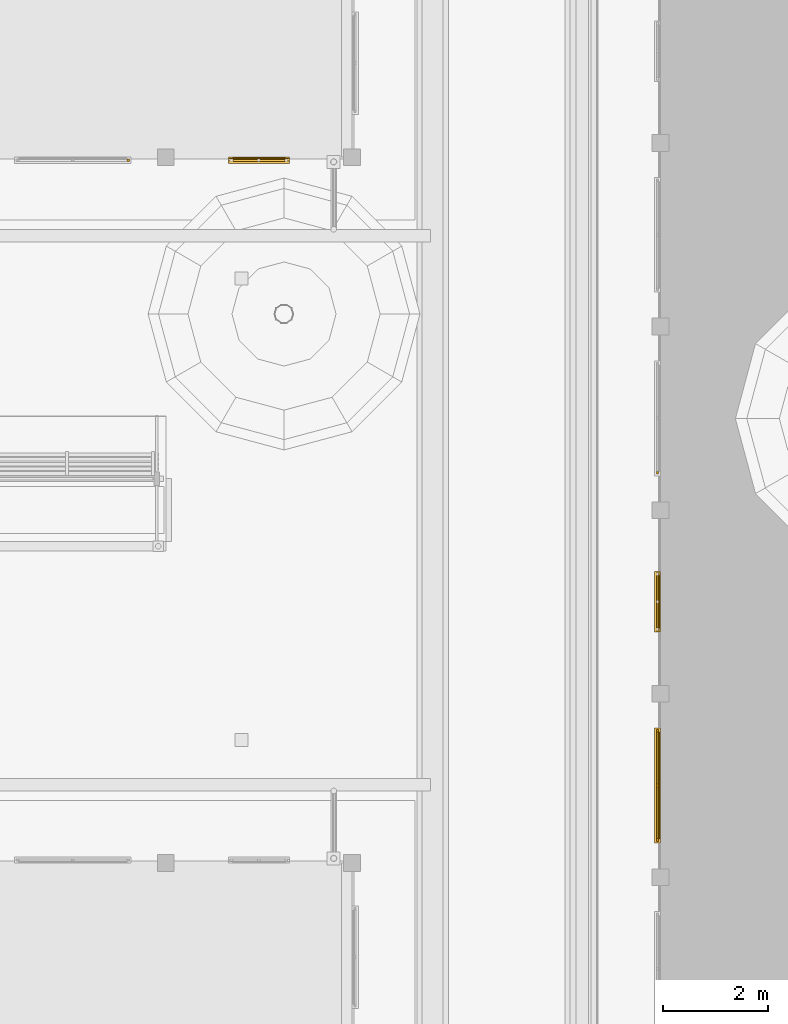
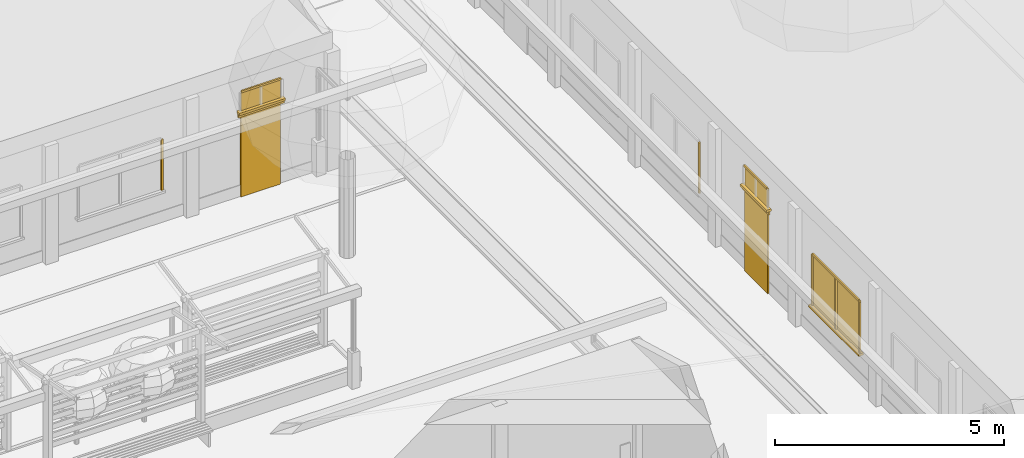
# One storey, part 67 of 177: 14 windows, 4 doors.
"""IFC4 building model written with IfcOpenShell, lengths in metres."""

import ifcopenshell
import ifcopenshell.guid

model = None  # the IFC model being written
_history = None  # IfcOwnerHistory: only IFC2X3 demands one
_inside = {}  # id of a spatial element -> (the spatial element, [elements in it])
_under = {}  # id of a project, library or spatial element -> (it, [spatial elements below it])
_declared = {}  # id of a project -> (the project, [libraries it declares])
_typed = {}  # id of a type object -> (the type object, [elements of that type])
_made_of = {}  # id of a material, layer set ... -> (it, [elements and type objects made of it])


def new_model(schema):
    """Start an empty IFC model of exactly this schema.

    Asked for "IFC4X3", IfcOpenShell would pick the latest addendum, in which some entities
    have other attributes; the version numbers below select the first issue.
    IFC2X3 requires an IfcOwnerHistory on every rooted entity: one is made here for all.
    """
    global model, _history
    if schema == "IFC4X3":
        model = ifcopenshell.file(schema_version=(4, 3, 0, 0))
    else:
        model = ifcopenshell.file(schema=schema)
    _inside.clear()
    _under.clear()
    _declared.clear()
    _typed.clear()
    _made_of.clear()
    _history = None
    if model.schema == "IFC2X3":
        org = make("IfcOrganization", Name="unknown")
        user = make(
            "IfcPersonAndOrganization",
            ThePerson=make("IfcPerson", FamilyName="unknown"),
            TheOrganization=org,
        )
        app = make(
            "IfcApplication",
            ApplicationDeveloper=org,
            Version="unknown",
            ApplicationFullName="unknown",
            ApplicationIdentifier="unknown",
        )
        _history = make(
            "IfcOwnerHistory",
            OwningUser=user,
            OwningApplication=app,
            ChangeAction="ADDED",
            CreationDate=0,
        )
    return model


def make(cls, **values):
    """One entity of the class cls with the attributes given. An attribute that is None is left unset."""
    return model.create_entity(
        cls, **{name: value for name, value in values.items() if value is not None}
    )


def rooted(cls, **values):
    """An entity with a GlobalId (a new one), such as an element, a storey or a relation."""
    return make(cls, GlobalId=ifcopenshell.guid.new(), OwnerHistory=_history, **values)


def si_unit(unit_type, name, prefix=None):
    """IfcSIUnit, for example si_unit("LENGTHUNIT", "METRE", prefix="MILLI")."""
    return make("IfcSIUnit", UnitType=unit_type, Prefix=prefix, Name=name)


def assignment(units):
    """IfcUnitAssignment: the units of a project."""
    return None if units is None else make("IfcUnitAssignment", Units=units)


def point(xyz):
    """IfcCartesianPoint."""
    return None if xyz is None else make("IfcCartesianPoint", Coordinates=xyz)


def direction(xyz):
    """IfcDirection."""
    return None if xyz is None else make("IfcDirection", DirectionRatios=xyz)


def frame(location, z_axis=None, x_axis=None):
    """IfcAxis2Placement3D, a coordinate frame: its origin and axes. An axis left out is left unset."""
    return make(
        "IfcAxis2Placement3D",
        Location=point(location),
        Axis=direction(z_axis),
        RefDirection=direction(x_axis),
    )


def origin():
    """The frame at (0, 0, 0) with its axes left unset."""
    return frame((0.0, 0.0, 0.0))


def origin_with_axes():
    """The frame at (0, 0, 0) with the z axis (0, 0, 1) and the x axis (1, 0, 0) written out."""
    return frame((0.0, 0.0, 0.0), z_axis=(0.0, 0.0, 1.0), x_axis=(1.0, 0.0, 0.0))


def place(relative_to, where):
    """IfcLocalPlacement: puts the frame where relative to a parent placement (None: the world)."""
    return make(
        "IfcLocalPlacement", PlacementRelTo=relative_to, RelativePlacement=where
    )


def context(
    kind, dimensions, precision=None, world=None, true_north=None, identifier=None
):
    """IfcGeometricRepresentationContext, for example the 3D "Model" context."""
    return make(
        "IfcGeometricRepresentationContext",
        ContextIdentifier=identifier,
        ContextType=kind,
        CoordinateSpaceDimension=dimensions,
        Precision=precision,
        WorldCoordinateSystem=world,
        TrueNorth=true_north,
    )


def subcontext(parent, identifier, kind, view, scale=None):
    """IfcGeometricRepresentationSubContext, for example "Body" below "Model"."""
    return make(
        "IfcGeometricRepresentationSubContext",
        ContextIdentifier=identifier,
        ContextType=kind,
        ParentContext=parent,
        TargetScale=scale,
        TargetView=view,
    )


def project(units=None, contexts=None):
    """IfcProject with its units and contexts."""
    return rooted(
        "IfcProject",
        Name="project",
        RepresentationContexts=contexts,
        UnitsInContext=assignment(units),
    )


def spatial(cls, under=None, at=None, **own):
    """A site, building, storey or space (cls), placed at a placement, below another one or the project."""
    s = rooted(cls, ObjectPlacement=at, **own)
    if under is not None:
        _under.setdefault(under.id(), (under, []))[1].append(s)
    return s


def point_list(points):
    """IfcCartesianPointList2D or 3D."""
    cls = (
        "IfcCartesianPointList2D" if len(points[0]) == 2 else "IfcCartesianPointList3D"
    )
    return make(cls, CoordList=points)


def triangles(points, corners, closed=None, point_numbers=None):
    """IfcTriangulatedFaceSet: each triangle names its three corners, points numbered from 1."""
    return make(
        "IfcTriangulatedFaceSet",
        Coordinates=point_list(points),
        Closed=closed,
        CoordIndex=corners,
        PnIndex=point_numbers,
    )


def shape(context_of_items, identifier, shape_type, items):
    """IfcShapeRepresentation: the items that make up one representation, for example the "Body"."""
    return make(
        "IfcShapeRepresentation",
        ContextOfItems=context_of_items,
        RepresentationIdentifier=identifier,
        RepresentationType=shape_type,
        Items=items,
    )


def made_of(thing, what):
    """Note that an element or type object is made of a material, layer set ...; save() writes the relation."""
    if what is not None:
        _made_of.setdefault(what.id(), (what, []))[1].append(thing)
    return thing


def element(
    cls,
    number,
    at=None,
    inside=None,
    cuts=None,
    type_object=None,
    material=None,
    context=None,
    identifier="Body",
    shape_type=None,
    held_by="IfcProductDefinitionShape",
    body=None,
    shapes=None,
    **own,
):
    """One element of the class cls, such as IfcWall. Its Tag is "e" and its number.

    at: its placement. inside: the storey or other place that contains it. cuts: it is an
    opening in that element (IfcRelVoidsElement). A single representation is given by context,
    identifier, shape_type and body (its items); several are given by shapes. held_by: the class
    of the entity that holds the representations. save() writes the other relations.
    """
    e = rooted(cls, Tag="e%d" % number, ObjectPlacement=at, **own)
    if body is not None:
        shapes = [shape(context, identifier, shape_type, body)]
    if shapes is not None:
        e.Representation = make(held_by, Representations=shapes)
    if inside is not None:
        _inside.setdefault(inside.id(), (inside, []))[1].append(e)
    if cuts is not None:
        rooted(
            "IfcRelVoidsElement", RelatingBuildingElement=cuts, RelatedOpeningElement=e
        )
    if type_object is not None:
        _typed.setdefault(type_object.id(), (type_object, []))[1].append(e)
    return made_of(e, material)


def aggregate(whole, parts):
    """IfcRelAggregates: a whole, such as a stair, and the parts it consists of."""
    return rooted("IfcRelAggregates", RelatingObject=whole, RelatedObjects=parts)


def save(model, path):
    """Write the relations noted so far, then the file.

    IfcRelAggregates (storeys below a building ...), IfcRelContainedInSpatialStructure (elements
    in a storey), IfcRelDefinesByType, IfcRelAssociatesMaterial and IfcRelDeclares: one each for
    every whole, place, type object, material and project.
    """
    for whole, parts in _under.values():
        aggregate(whole, parts)
    for where, things in _inside.values():
        rooted(
            "IfcRelContainedInSpatialStructure",
            RelatedElements=things,
            RelatingStructure=where,
        )
    for kind, things in _typed.values():
        rooted("IfcRelDefinesByType", RelatedObjects=things, RelatingType=kind)
    for what, things in _made_of.values():
        rooted("IfcRelAssociatesMaterial", RelatedObjects=things, RelatingMaterial=what)
    for by, libraries in _declared.values():
        rooted("IfcRelDeclares", RelatingContext=by, RelatedDefinitions=libraries)
    model.write(path)


model = new_model("IFC4")

# Units and contexts
model_context = context("Model", 3, precision=1e-05, world=origin_with_axes())
body_context = subcontext(model_context, "Body", "Model", "MODEL_VIEW")
ifc_project = project(units=[si_unit("LENGTHUNIT", "METRE"), si_unit("AREAUNIT", "SQUARE_METRE"), si_unit("VOLUMEUNIT", "CUBIC_METRE"), si_unit("PLANEANGLEUNIT", "RADIAN")], contexts=[model_context])

# Site, building, storey
site_placement = place(None, origin_with_axes())
site = spatial("IfcSite", under=ifc_project, at=site_placement, Name="Predio Los Mangos - Morales, San Martín", CompositionType="ELEMENT")
building_placement = place(site_placement, origin())
building = spatial("IfcBuilding", under=site, at=building_placement, Name="Hogar de Refugio Temporal", CompositionType="ELEMENT")
storey_placement = place(building_placement, origin())
storey = spatial("IfcBuildingStorey", under=building, at=storey_placement, Name="NIVEL 1 (NPT +0.00)", CompositionType="ELEMENT", Elevation=0.0)

# Window
window_1_placement = place(storey_placement, origin())
element("IfcWindow", 1, at=window_1_placement, inside=storey, Name="E-08_v3_m", ObjectType="Ventana", PredefinedType="WINDOW", context=body_context, shape_type="Tessellation", body=[
    triangles([(45.4924, 116.92, 1.05), (45.5424, 116.92, 1.05), (45.5424, 116.96, 1.05), (45.4924, 116.96, 1.05), (45.4924, 116.92, 2.4), (45.5424, 116.92, 2.4), (45.5424, 116.96, 2.4), (45.4924, 116.96, 2.4)], [[1, 4, 3], [1, 3, 2], [5, 6, 7], [5, 7, 8], [1, 2, 6], [1, 6, 5], [2, 3, 7], [2, 7, 6], [3, 4, 8], [3, 8, 7], [4, 1, 5], [4, 5, 8]]),
])

# Doors
door_1_placement = place(storey_placement, origin())
element("IfcDoor", 2, at=door_1_placement, inside=storey, Name="E-08_p4", ObjectType="Puerta", PredefinedType="DOOR", context=body_context, shape_type="Tessellation", body=[
    triangles([(47.52, 116.95, 0.15), (48.52, 116.95, 0.15), (48.52, 116.99, 0.15), (47.52, 116.99, 0.15), (47.52, 116.95, 2.3), (48.52, 116.95, 2.3), (48.52, 116.99, 2.3), (47.52, 116.99, 2.3)], [[1, 4, 3], [1, 3, 2], [5, 6, 7], [5, 7, 8], [1, 2, 6], [1, 6, 5], [2, 3, 7], [2, 7, 6], [3, 4, 8], [3, 8, 7], [4, 1, 5], [4, 5, 8]]),
])
door_2_placement = place(storey_placement, origin())
element("IfcDoor", 3, at=door_2_placement, inside=storey, Name="E-08_p4_marco", ObjectType="Puerta", PredefinedType="DOOR", context=body_context, shape_type="Tessellation", body=[
    triangles([(47.44, 116.93, 2.3), (48.6, 116.93, 2.3), (48.6, 116.97, 2.3), (47.44, 116.97, 2.3), (47.44, 116.93, 2.38), (48.6, 116.93, 2.38), (48.6, 116.97, 2.38), (47.44, 116.97, 2.38)], [[1, 4, 3], [1, 3, 2], [5, 6, 7], [5, 7, 8], [1, 2, 6], [1, 6, 5], [2, 3, 7], [2, 7, 6], [3, 4, 8], [3, 8, 7], [4, 1, 5], [4, 5, 8]]),
])

# Windows
window_2_placement = place(storey_placement, origin())
element("IfcWindow", 4, at=window_2_placement, inside=storey, Name="E-08_vt4_vid", ObjectType="Ventana", PredefinedType="WINDOW", context=body_context, shape_type="Tessellation", body=[
    triangles([(47.52, 116.96, 2.45), (48.52, 116.96, 2.45), (48.52, 116.98, 2.45), (47.52, 116.98, 2.45), (47.52, 116.96, 2.95), (48.52, 116.96, 2.95), (48.52, 116.98, 2.95), (47.52, 116.98, 2.95)], [[1, 4, 3], [1, 3, 2], [5, 6, 7], [5, 7, 8], [1, 2, 6], [1, 6, 5], [2, 3, 7], [2, 7, 6], [3, 4, 8], [3, 8, 7], [4, 1, 5], [4, 5, 8]]),
])
window_3_placement = place(storey_placement, origin())
element("IfcWindow", 5, at=window_3_placement, inside=storey, Name="E-08_vt4_m", ObjectType="Ventana", PredefinedType="WINDOW", context=body_context, shape_type="Tessellation", body=[
    triangles([(47.52, 116.92, 2.95), (48.52, 116.92, 2.95), (48.52, 116.96, 2.95), (47.52, 116.96, 2.95), (47.52, 116.92, 3.0), (48.52, 116.92, 3.0), (48.52, 116.96, 3.0), (47.52, 116.96, 3.0)], [[1, 4, 3], [1, 3, 2], [5, 6, 7], [5, 7, 8], [1, 2, 6], [1, 6, 5], [2, 3, 7], [2, 7, 6], [3, 4, 8], [3, 8, 7], [4, 1, 5], [4, 5, 8]]),
])
window_4_placement = place(storey_placement, origin())
element("IfcWindow", 6, at=window_4_placement, inside=storey, Name="E-08_vt4_alf", ObjectType="Ventana", PredefinedType="WINDOW", context=body_context, shape_type="Tessellation", body=[
    triangles([(47.44, 117.0, 2.39), (48.6, 117.0, 2.39), (48.6, 116.88, 2.39), (47.44, 116.88, 2.39), (47.44, 117.0, 2.45), (48.6, 117.0, 2.45), (48.6, 116.88, 2.45), (47.44, 116.88, 2.45)], [[1, 4, 3], [1, 3, 2], [5, 6, 7], [5, 7, 8], [1, 2, 6], [1, 6, 5], [2, 3, 7], [2, 7, 6], [3, 4, 8], [3, 8, 7], [4, 1, 5], [4, 5, 8]]),
])
window_5_placement = place(storey_placement, origin())
element("IfcWindow", 7, at=window_5_placement, inside=storey, Name="E-07_v3_vid", ObjectType="Ventana", PredefinedType="WINDOW", context=body_context, shape_type="Tessellation", body=[
    triangles([(55.66, 103.9671, 1.05), (55.68, 103.9671, 1.05), (55.68, 106.0029, 1.05), (55.66, 106.0029, 1.05), (55.66, 103.9671, 2.4), (55.68, 103.9671, 2.4), (55.68, 106.0029, 2.4), (55.66, 106.0029, 2.4)], [[1, 4, 3], [1, 3, 2], [5, 6, 7], [5, 7, 8], [1, 2, 6], [1, 6, 5], [2, 3, 7], [2, 7, 6], [3, 4, 8], [3, 8, 7], [4, 1, 5], [4, 5, 8]]),
])
window_6_placement = place(storey_placement, origin())
element("IfcWindow", 8, at=window_6_placement, inside=storey, Name="E-07_v3_m", ObjectType="Ventana", PredefinedType="WINDOW", context=body_context, shape_type="Tessellation", body=[
    triangles([(55.62, 103.9171, 1.05), (55.66, 103.9171, 1.05), (55.66, 103.9671, 1.05), (55.62, 103.9671, 1.05), (55.62, 103.9171, 2.4), (55.66, 103.9171, 2.4), (55.66, 103.9671, 2.4), (55.62, 103.9671, 2.4)], [[1, 4, 3], [1, 3, 2], [5, 6, 7], [5, 7, 8], [1, 2, 6], [1, 6, 5], [2, 3, 7], [2, 7, 6], [3, 4, 8], [3, 8, 7], [4, 1, 5], [4, 5, 8]]),
])
window_7_placement = place(storey_placement, origin())
element("IfcWindow", 9, at=window_7_placement, inside=storey, Name="E-07_v3_m", ObjectType="Ventana", PredefinedType="WINDOW", context=body_context, shape_type="Tessellation", body=[
    triangles([(55.62, 106.0029, 1.05), (55.66, 106.0029, 1.05), (55.66, 106.0529, 1.05), (55.62, 106.0529, 1.05), (55.62, 106.0029, 2.4), (55.66, 106.0029, 2.4), (55.66, 106.0529, 2.4), (55.62, 106.0529, 2.4)], [[1, 4, 3], [1, 3, 2], [5, 6, 7], [5, 7, 8], [1, 2, 6], [1, 6, 5], [2, 3, 7], [2, 7, 6], [3, 4, 8], [3, 8, 7], [4, 1, 5], [4, 5, 8]]),
])
window_8_placement = place(storey_placement, origin())
element("IfcWindow", 10, at=window_8_placement, inside=storey, Name="E-07_v3_m", ObjectType="Ventana", PredefinedType="WINDOW", context=body_context, shape_type="Tessellation", body=[
    triangles([(55.62, 103.9671, 2.4), (55.66, 103.9671, 2.4), (55.66, 106.0029, 2.4), (55.62, 106.0029, 2.4), (55.62, 103.9671, 2.45), (55.66, 103.9671, 2.45), (55.66, 106.0029, 2.45), (55.62, 106.0029, 2.45)], [[1, 4, 3], [1, 3, 2], [5, 6, 7], [5, 7, 8], [1, 2, 6], [1, 6, 5], [2, 3, 7], [2, 7, 6], [3, 4, 8], [3, 8, 7], [4, 1, 5], [4, 5, 8]]),
])
window_9_placement = place(storey_placement, origin())
element("IfcWindow", 11, at=window_9_placement, inside=storey, Name="E-07_v3_m", ObjectType="Ventana", PredefinedType="WINDOW", context=body_context, shape_type="Tessellation", body=[
    triangles([(55.62, 104.96, 1.05), (55.66, 104.96, 1.05), (55.66, 105.01, 1.05), (55.62, 105.01, 1.05), (55.62, 104.96, 2.4), (55.66, 104.96, 2.4), (55.66, 105.01, 2.4), (55.62, 105.01, 2.4)], [[1, 4, 3], [1, 3, 2], [5, 6, 7], [5, 7, 8], [1, 2, 6], [1, 6, 5], [2, 3, 7], [2, 7, 6], [3, 4, 8], [3, 8, 7], [4, 1, 5], [4, 5, 8]]),
])
window_10_placement = place(storey_placement, origin())
element("IfcWindow", 12, at=window_10_placement, inside=storey, Name="E-07_v3_alf", ObjectType="Ventana", PredefinedType="WINDOW", context=body_context, shape_type="Tessellation", body=[
    triangles([(55.7, 103.8871, 0.99), (55.58, 103.8871, 0.99), (55.58, 106.0829, 0.99), (55.7, 106.0829, 0.99), (55.7, 103.8871, 1.05), (55.58, 103.8871, 1.05), (55.58, 106.0829, 1.05), (55.7, 106.0829, 1.05)], [[1, 4, 3], [1, 3, 2], [5, 6, 7], [5, 7, 8], [1, 2, 6], [1, 6, 5], [2, 3, 7], [2, 7, 6], [3, 4, 8], [3, 8, 7], [4, 1, 5], [4, 5, 8]]),
])

# Doors
door_3_placement = place(storey_placement, origin())
element("IfcDoor", 13, at=door_3_placement, inside=storey, Name="E-07_p4", ObjectType="Puerta", PredefinedType="DOOR", context=body_context, shape_type="Tessellation", body=[
    triangles([(55.65, 107.995, 0.15), (55.69, 107.995, 0.15), (55.69, 108.995, 0.15), (55.65, 108.995, 0.15), (55.65, 107.995, 2.3), (55.69, 107.995, 2.3), (55.69, 108.995, 2.3), (55.65, 108.995, 2.3)], [[1, 4, 3], [1, 3, 2], [5, 6, 7], [5, 7, 8], [1, 2, 6], [1, 6, 5], [2, 3, 7], [2, 7, 6], [3, 4, 8], [3, 8, 7], [4, 1, 5], [4, 5, 8]]),
])
door_4_placement = place(storey_placement, origin())
element("IfcDoor", 14, at=door_4_placement, inside=storey, Name="E-07_p4_marco", ObjectType="Puerta", PredefinedType="DOOR", context=body_context, shape_type="Tessellation", body=[
    triangles([(55.63, 107.915, 2.3), (55.67, 107.915, 2.3), (55.67, 109.075, 2.3), (55.63, 109.075, 2.3), (55.63, 107.915, 2.38), (55.67, 107.915, 2.38), (55.67, 109.075, 2.38), (55.63, 109.075, 2.38)], [[1, 4, 3], [1, 3, 2], [5, 6, 7], [5, 7, 8], [1, 2, 6], [1, 6, 5], [2, 3, 7], [2, 7, 6], [3, 4, 8], [3, 8, 7], [4, 1, 5], [4, 5, 8]]),
])

# Windows
window_11_placement = place(storey_placement, origin())
element("IfcWindow", 15, at=window_11_placement, inside=storey, Name="E-07_vt4_vid", ObjectType="Ventana", PredefinedType="WINDOW", context=body_context, shape_type="Tessellation", body=[
    triangles([(55.66, 107.995, 2.45), (55.68, 107.995, 2.45), (55.68, 108.995, 2.45), (55.66, 108.995, 2.45), (55.66, 107.995, 2.95), (55.68, 107.995, 2.95), (55.68, 108.995, 2.95), (55.66, 108.995, 2.95)], [[1, 4, 3], [1, 3, 2], [5, 6, 7], [5, 7, 8], [1, 2, 6], [1, 6, 5], [2, 3, 7], [2, 7, 6], [3, 4, 8], [3, 8, 7], [4, 1, 5], [4, 5, 8]]),
])
window_12_placement = place(storey_placement, origin())
element("IfcWindow", 16, at=window_12_placement, inside=storey, Name="E-07_vt4_m", ObjectType="Ventana", PredefinedType="WINDOW", context=body_context, shape_type="Tessellation", body=[
    triangles([(55.62, 107.995, 2.95), (55.66, 107.995, 2.95), (55.66, 108.995, 2.95), (55.62, 108.995, 2.95), (55.62, 107.995, 3.0), (55.66, 107.995, 3.0), (55.66, 108.995, 3.0), (55.62, 108.995, 3.0)], [[1, 4, 3], [1, 3, 2], [5, 6, 7], [5, 7, 8], [1, 2, 6], [1, 6, 5], [2, 3, 7], [2, 7, 6], [3, 4, 8], [3, 8, 7], [4, 1, 5], [4, 5, 8]]),
])
window_13_placement = place(storey_placement, origin())
element("IfcWindow", 17, at=window_13_placement, inside=storey, Name="E-07_vt4_alf", ObjectType="Ventana", PredefinedType="WINDOW", context=body_context, shape_type="Tessellation", body=[
    triangles([(55.7, 107.915, 2.39), (55.58, 107.915, 2.39), (55.58, 109.075, 2.39), (55.7, 109.075, 2.39), (55.7, 107.915, 2.45), (55.58, 107.915, 2.45), (55.58, 109.075, 2.45), (55.7, 109.075, 2.45)], [[1, 4, 3], [1, 3, 2], [5, 6, 7], [5, 7, 8], [1, 2, 6], [1, 6, 5], [2, 3, 7], [2, 7, 6], [3, 4, 8], [3, 8, 7], [4, 1, 5], [4, 5, 8]]),
])
window_14_placement = place(storey_placement, origin())
element("IfcWindow", 18, at=window_14_placement, inside=storey, Name="E-07_v5_m", ObjectType="Ventana", PredefinedType="WINDOW", context=body_context, shape_type="Tessellation", body=[
    triangles([(55.62, 110.9371, 1.05), (55.66, 110.9371, 1.05), (55.66, 110.9871, 1.05), (55.62, 110.9871, 1.05), (55.62, 110.9371, 2.4), (55.66, 110.9371, 2.4), (55.66, 110.9871, 2.4), (55.62, 110.9871, 2.4)], [[1, 4, 3], [1, 3, 2], [5, 6, 7], [5, 7, 8], [1, 2, 6], [1, 6, 5], [2, 3, 7], [2, 7, 6], [3, 4, 8], [3, 8, 7], [4, 1, 5], [4, 5, 8]]),
])

save(model, "model.ifc")
